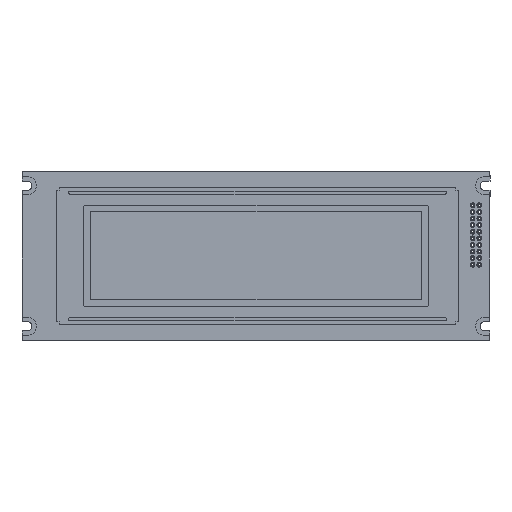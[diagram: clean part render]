
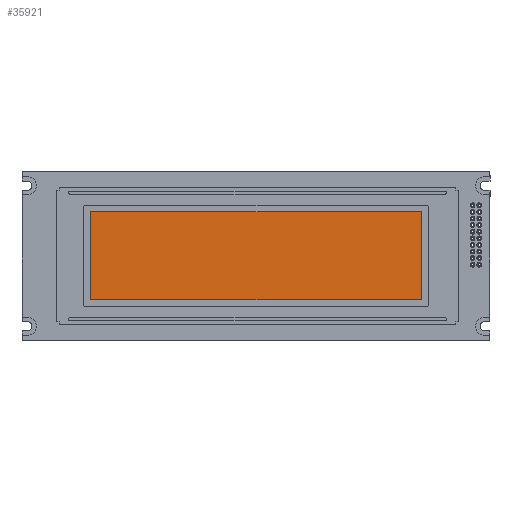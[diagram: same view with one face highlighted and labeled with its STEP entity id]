
A CAD part, top view. The second image highlights one B-rep face of the part: STEP entity #35921.
In plain terms, the highlighted planar face has unit normal (0, 0, 1).
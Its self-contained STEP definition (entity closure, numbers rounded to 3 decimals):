
#3071 = EDGE_CURVE ( 'NONE', #39653, #25086, #14029, .T. ) ;
#4844 = DIRECTION ( 'NONE',  ( -1., 0., 0. ) ) ;
#6244 = CARTESIAN_POINT ( 'NONE',  ( 153.58, -49.44, 11.6 ) ) ;
#7223 = VERTEX_POINT ( 'NONE', #6244 ) ;
#7491 = DIRECTION ( 'NONE',  ( 1., 0., 0. ) ) ;
#7675 = VECTOR ( 'NONE', #12001, 1000. ) ;
#8078 = AXIS2_PLACEMENT_3D ( 'NONE', #23684, #16297, #4844 ) ;
#8678 = CARTESIAN_POINT ( 'NONE',  ( 155.5, -15.56, 11.6 ) ) ;
#12001 = DIRECTION ( 'NONE',  ( -1., 0., 0. ) ) ;
#12399 = EDGE_CURVE ( 'NONE', #20450, #39653, #16529, .T. ) ;
#12936 = CARTESIAN_POINT ( 'NONE',  ( 153.58, -15.56, 11.6 ) ) ;
#14029 = LINE ( 'NONE', #18324, #48965 ) ;
#14116 = ORIENTED_EDGE ( 'NONE', *, *, #20120, .T. ) ;
#15173 = LINE ( 'NONE', #46210, #39761 ) ;
#16297 = DIRECTION ( 'NONE',  ( 0., 0., -1. ) ) ;
#16529 = LINE ( 'NONE', #8678, #7675 ) ;
#18324 = CARTESIAN_POINT ( 'NONE',  ( 26.42, -14., 11.6 ) ) ;
#20120 = EDGE_CURVE ( 'NONE', #25086, #7223, #46386, .T. ) ;
#20450 = VERTEX_POINT ( 'NONE', #12936 ) ;
#22421 = FACE_OUTER_BOUND ( 'NONE', #31340, .T. ) ;
#23684 = CARTESIAN_POINT ( 'NONE',  ( 155.5, -14., 11.6 ) ) ;
#23694 = ORIENTED_EDGE ( 'NONE', *, *, #3071, .T. ) ;
#25086 = VERTEX_POINT ( 'NONE', #29283 ) ;
#26754 = PLANE ( 'NONE',  #8078 ) ;
#29283 = CARTESIAN_POINT ( 'NONE',  ( 26.42, -49.44, 11.6 ) ) ;
#30619 = ORIENTED_EDGE ( 'NONE', *, *, #12399, .T. ) ;
#30691 = DIRECTION ( 'NONE',  ( 0., 1., 0. ) ) ;
#31340 = EDGE_LOOP ( 'NONE', ( #30619, #23694, #14116, #49478 ) ) ;
#31914 = CARTESIAN_POINT ( 'NONE',  ( 26.42, -15.56, 11.6 ) ) ;
#35921 = ADVANCED_FACE ( 'NONE', ( #22421 ), #26754, .F. ) ;
#36501 = EDGE_CURVE ( 'NONE', #7223, #20450, #15173, .T. ) ;
#37920 = DIRECTION ( 'NONE',  ( 0., -1., 0. ) ) ;
#39653 = VERTEX_POINT ( 'NONE', #31914 ) ;
#39761 = VECTOR ( 'NONE', #30691, 1000. ) ;
#42280 = VECTOR ( 'NONE', #7491, 1000. ) ;
#42290 = CARTESIAN_POINT ( 'NONE',  ( 155.5, -49.44, 11.6 ) ) ;
#46210 = CARTESIAN_POINT ( 'NONE',  ( 153.58, -14., 11.6 ) ) ;
#46386 = LINE ( 'NONE', #42290, #42280 ) ;
#48965 = VECTOR ( 'NONE', #37920, 1000. ) ;
#49478 = ORIENTED_EDGE ( 'NONE', *, *, #36501, .T. ) ;
